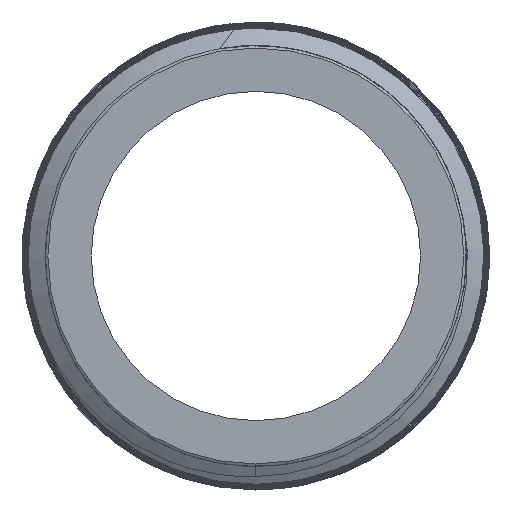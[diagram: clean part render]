
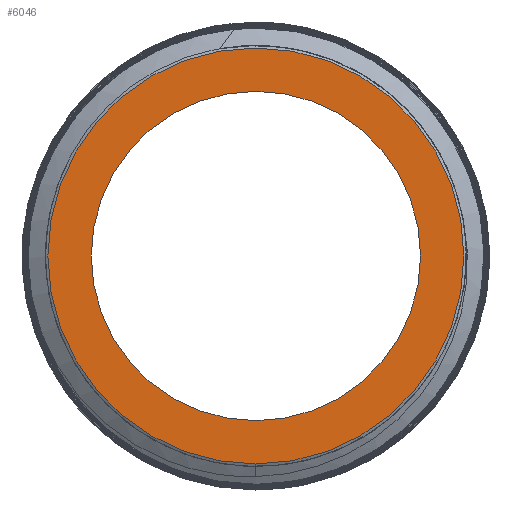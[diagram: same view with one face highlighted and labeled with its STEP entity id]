
A CAD part, left-side view. The second image highlights one B-rep face of the part: STEP entity #6046.
In plain terms, the highlighted planar face has unit normal (-1, 0, 0).
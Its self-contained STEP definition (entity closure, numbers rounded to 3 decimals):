
#115 = EDGE_CURVE ( 'NONE', #253, #5038, #5726, .T. ) ;
#253 = VERTEX_POINT ( 'NONE', #1306 ) ;
#628 = EDGE_LOOP ( 'NONE', ( #796, #4905 ) ) ;
#650 = CIRCLE ( 'NONE', #2270, 4.75 ) ;
#796 = ORIENTED_EDGE ( 'NONE', *, *, #5793, .F. ) ;
#841 = CARTESIAN_POINT ( 'NONE',  ( -250., 4.75, 0. ) ) ;
#1064 = CARTESIAN_POINT ( 'NONE',  ( -250., 0., 4.75 ) ) ;
#1306 = CARTESIAN_POINT ( 'NONE',  ( -250., 0., 6. ) ) ;
#1598 = DIRECTION ( 'NONE',  ( -1., 0., 0. ) ) ;
#1783 = AXIS2_PLACEMENT_3D ( 'NONE', #3090, #6466, #2548 ) ;
#1917 = PLANE ( 'NONE',  #4336 ) ;
#2212 = CARTESIAN_POINT ( 'NONE',  ( -250., 0., 0. ) ) ;
#2260 = EDGE_LOOP ( 'NONE', ( #6519, #5778 ) ) ;
#2270 = AXIS2_PLACEMENT_3D ( 'NONE', #4122, #4043, #5168 ) ;
#2433 = FACE_OUTER_BOUND ( 'NONE', #2260, .T. ) ;
#2437 = EDGE_CURVE ( 'NONE', #4497, #4142, #650, .T. ) ;
#2466 = EDGE_CURVE ( 'NONE', #5038, #253, #6337, .T. ) ;
#2548 = DIRECTION ( 'NONE',  ( 0., 0., 1. ) ) ;
#2610 = AXIS2_PLACEMENT_3D ( 'NONE', #2212, #1598, #3934 ) ;
#2887 = CARTESIAN_POINT ( 'NONE',  ( -250., 0., 0. ) ) ;
#3082 = FACE_BOUND ( 'NONE', #628, .T. ) ;
#3090 = CARTESIAN_POINT ( 'NONE',  ( -250., 0., 0. ) ) ;
#3934 = DIRECTION ( 'NONE',  ( 0., 0., 1. ) ) ;
#4043 = DIRECTION ( 'NONE',  ( -1., 0., 0. ) ) ;
#4122 = CARTESIAN_POINT ( 'NONE',  ( -250., 0., 0. ) ) ;
#4142 = VERTEX_POINT ( 'NONE', #1064 ) ;
#4336 = AXIS2_PLACEMENT_3D ( 'NONE', #841, #5759, #5831 ) ;
#4443 = CIRCLE ( 'NONE', #1783, 4.75 ) ;
#4497 = VERTEX_POINT ( 'NONE', #6980 ) ;
#4547 = DIRECTION ( 'NONE',  ( 0., 0., 1. ) ) ;
#4905 = ORIENTED_EDGE ( 'NONE', *, *, #2437, .F. ) ;
#5038 = VERTEX_POINT ( 'NONE', #5040 ) ;
#5040 = CARTESIAN_POINT ( 'NONE',  ( -250., 0., -6. ) ) ;
#5168 = DIRECTION ( 'NONE',  ( 0., 0., 1. ) ) ;
#5619 = AXIS2_PLACEMENT_3D ( 'NONE', #2887, #6813, #4547 ) ;
#5726 = CIRCLE ( 'NONE', #2610, 6. ) ;
#5759 = DIRECTION ( 'NONE',  ( 1., 0., 0. ) ) ;
#5778 = ORIENTED_EDGE ( 'NONE', *, *, #115, .T. ) ;
#5793 = EDGE_CURVE ( 'NONE', #4142, #4497, #4443, .T. ) ;
#5831 = DIRECTION ( 'NONE',  ( 0., 0., -1. ) ) ;
#6046 = ADVANCED_FACE ( 'NONE', ( #3082, #2433 ), #1917, .F. ) ;
#6337 = CIRCLE ( 'NONE', #5619, 6. ) ;
#6466 = DIRECTION ( 'NONE',  ( -1., 0., 0. ) ) ;
#6519 = ORIENTED_EDGE ( 'NONE', *, *, #2466, .T. ) ;
#6813 = DIRECTION ( 'NONE',  ( -1., 0., 0. ) ) ;
#6980 = CARTESIAN_POINT ( 'NONE',  ( -250., 0., -4.75 ) ) ;
